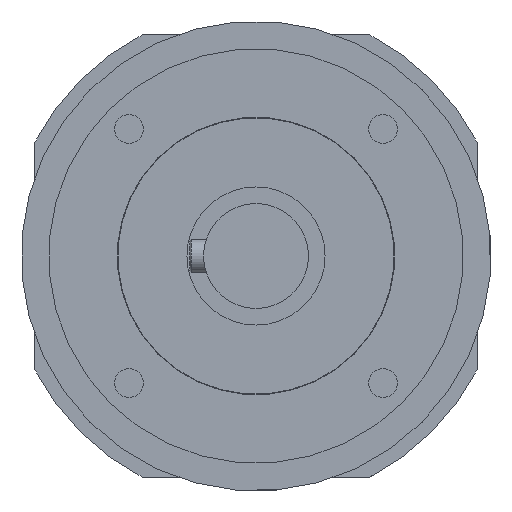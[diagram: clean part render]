
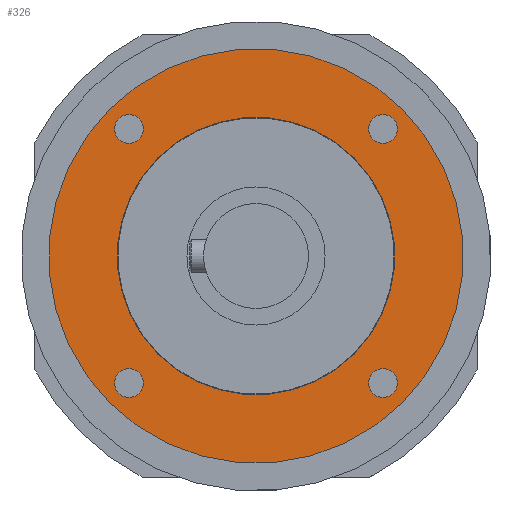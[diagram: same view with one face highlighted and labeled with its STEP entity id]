
A CAD part, left-side view. The second image highlights one B-rep face of the part: STEP entity #326.
In plain terms, the highlighted planar face has unit normal (-1, 0, 0).
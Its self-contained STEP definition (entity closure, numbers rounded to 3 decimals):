
#326=ADVANCED_FACE('',(#472,#473,#474,#475,#476,#477),#424,.T.);
#424=PLANE('',#1430);
#472=FACE_BOUND('',#605,.T.);
#473=FACE_BOUND('',#606,.T.);
#474=FACE_BOUND('',#607,.T.);
#475=FACE_BOUND('',#608,.T.);
#476=FACE_BOUND('',#609,.T.);
#477=FACE_BOUND('',#610,.T.);
#605=EDGE_LOOP('',(#768));
#606=EDGE_LOOP('',(#769));
#607=EDGE_LOOP('',(#770));
#608=EDGE_LOOP('',(#771));
#609=EDGE_LOOP('',(#772));
#610=EDGE_LOOP('',(#773));
#768=ORIENTED_EDGE('',*,*,#1186,.T.);
#769=ORIENTED_EDGE('',*,*,#1187,.T.);
#770=ORIENTED_EDGE('',*,*,#1188,.T.);
#771=ORIENTED_EDGE('',*,*,#1189,.T.);
#772=ORIENTED_EDGE('',*,*,#1190,.T.);
#773=ORIENTED_EDGE('',*,*,#1191,.T.);
#1061=VERTEX_POINT('',#2046);
#1062=VERTEX_POINT('',#2048);
#1063=VERTEX_POINT('',#2050);
#1064=VERTEX_POINT('',#2052);
#1065=VERTEX_POINT('',#2054);
#1066=VERTEX_POINT('',#2056);
#1186=EDGE_CURVE('',#1061,#1061,#1334,.T.);
#1187=EDGE_CURVE('',#1062,#1062,#1335,.T.);
#1188=EDGE_CURVE('',#1063,#1063,#1336,.T.);
#1189=EDGE_CURVE('',#1064,#1064,#1337,.T.);
#1190=EDGE_CURVE('',#1065,#1065,#1338,.T.);
#1191=EDGE_CURVE('',#1066,#1066,#1339,.T.);
#1334=CIRCLE('',#1424,2.594);
#1335=CIRCLE('',#1425,2.594);
#1336=CIRCLE('',#1426,2.594);
#1337=CIRCLE('',#1427,2.594);
#1338=CIRCLE('',#1428,37.5);
#1339=CIRCLE('',#1429,25.1);
#1424=AXIS2_PLACEMENT_3D('',#2045,#1619,#1620);
#1425=AXIS2_PLACEMENT_3D('',#2047,#1621,#1622);
#1426=AXIS2_PLACEMENT_3D('',#2049,#1623,#1624);
#1427=AXIS2_PLACEMENT_3D('',#2051,#1625,#1626);
#1428=AXIS2_PLACEMENT_3D('',#2053,#1627,#1628);
#1429=AXIS2_PLACEMENT_3D('',#2055,#1629,#1630);
#1430=AXIS2_PLACEMENT_3D('',#2057,#1631,#1632);
#1619=DIRECTION('',(1.,0.,0.));
#1620=DIRECTION('',(0.,0.707,-0.707));
#1621=DIRECTION('',(1.,0.,0.));
#1622=DIRECTION('',(0.,0.707,0.707));
#1623=DIRECTION('',(1.,0.,0.));
#1624=DIRECTION('',(0.,-0.707,0.707));
#1625=DIRECTION('',(1.,0.,0.));
#1626=DIRECTION('',(0.,-0.707,-0.707));
#1627=DIRECTION('',(-1.,0.,0.));
#1628=DIRECTION('',(0.,0.707,0.707));
#1629=DIRECTION('',(1.,0.,0.));
#1630=DIRECTION('',(0.,-0.707,-0.707));
#1631=DIRECTION('',(-1.,0.,0.));
#1632=DIRECTION('',(0.,0.707,0.707));
#2045=CARTESIAN_POINT('',(-83.5,-22.981,-22.981));
#2046=CARTESIAN_POINT('',(-83.5,-21.147,-24.815));
#2047=CARTESIAN_POINT('',(-83.5,22.981,-22.981));
#2048=CARTESIAN_POINT('',(-83.5,24.815,-21.147));
#2049=CARTESIAN_POINT('',(-83.5,22.981,22.981));
#2050=CARTESIAN_POINT('',(-83.5,21.147,24.815));
#2051=CARTESIAN_POINT('',(-83.5,-22.981,22.981));
#2052=CARTESIAN_POINT('',(-83.5,-24.815,21.147));
#2053=CARTESIAN_POINT('',(-83.5,0.,0.));
#2054=CARTESIAN_POINT('',(-83.5,26.517,26.517));
#2055=CARTESIAN_POINT('',(-83.5,0.,0.));
#2056=CARTESIAN_POINT('',(-83.5,-17.748,-17.748));
#2057=CARTESIAN_POINT('',(-83.5,0.,0.));
